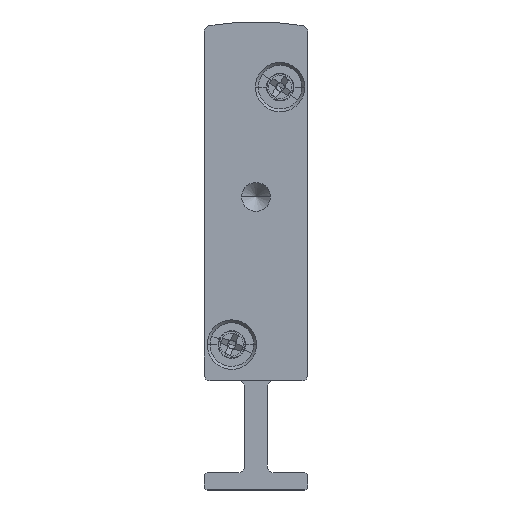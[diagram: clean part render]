
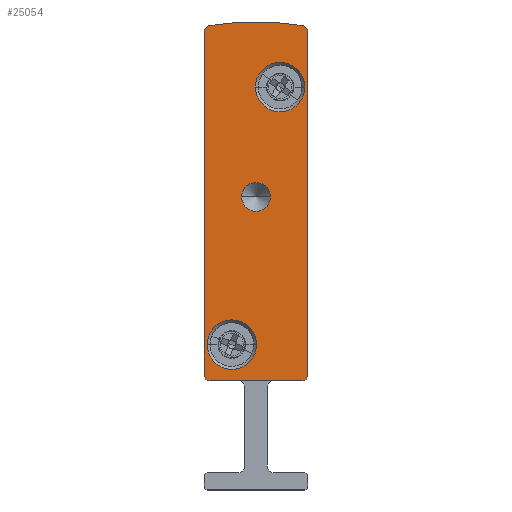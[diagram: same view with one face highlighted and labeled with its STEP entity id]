
A CAD part, front view. The second image highlights one B-rep face of the part: STEP entity #25054.
In plain terms, the highlighted planar face has unit normal (0, -1, 0).
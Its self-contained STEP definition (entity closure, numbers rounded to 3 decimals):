
#147 = CARTESIAN_POINT ( 'NONE',  ( 0., -2.5, 39.902 ) ) ;
#306 = CIRCLE ( 'NONE', #15837, 2.15 ) ;
#1715 = CARTESIAN_POINT ( 'NONE',  ( 0.408, -2.5, 40.393 ) ) ;
#1790 = VERTEX_POINT ( 'NONE', #12942 ) ;
#2793 = EDGE_CURVE ( 'NONE', #11171, #14448, #23287, .T. ) ;
#2937 = DIRECTION ( 'NONE',  ( -1., 0., 0. ) ) ;
#3032 = FACE_BOUND ( 'NONE', #15649, .T. ) ;
#3512 = ORIENTED_EDGE ( 'NONE', *, *, #23385, .F. ) ;
#3775 = DIRECTION ( 'NONE',  ( -1., 0., 0. ) ) ;
#3793 = DIRECTION ( 'NONE',  ( 0., -1., 0. ) ) ;
#4186 = DIRECTION ( 'NONE',  ( 0., 1., 0. ) ) ;
#4192 = VERTEX_POINT ( 'NONE', #30181 ) ;
#4200 = VERTEX_POINT ( 'NONE', #20446 ) ;
#4931 = ORIENTED_EDGE ( 'NONE', *, *, #23331, .T. ) ;
#5113 = LINE ( 'NONE', #29659, #32401 ) ;
#5249 = CARTESIAN_POINT ( 'NONE',  ( 4.5, -2.5, 25.5 ) ) ;
#5326 = EDGE_CURVE ( 'NONE', #29477, #11171, #22131, .T. ) ;
#5361 = CARTESIAN_POINT ( 'NONE',  ( 0.5, -2.5, 39.902 ) ) ;
#5776 = CARTESIAN_POINT ( 'NONE',  ( 5.75, -2.5, 25.5 ) ) ;
#5829 = FACE_BOUND ( 'NONE', #12439, .T. ) ;
#6264 = DIRECTION ( 'NONE',  ( 0., 1., 0. ) ) ;
#6591 = CARTESIAN_POINT ( 'NONE',  ( 4.5, -2.5, 17.092 ) ) ;
#6763 = DIRECTION ( 'NONE',  ( -1., 0., 0. ) ) ;
#6937 = ORIENTED_EDGE ( 'NONE', *, *, #31922, .F. ) ;
#6961 = VERTEX_POINT ( 'NONE', #19631 ) ;
#7161 = VERTEX_POINT ( 'NONE', #10514 ) ;
#7847 = VERTEX_POINT ( 'NONE', #9037 ) ;
#8272 = ORIENTED_EDGE ( 'NONE', *, *, #21490, .F. ) ;
#8278 = ORIENTED_EDGE ( 'NONE', *, *, #23998, .F. ) ;
#8296 = VERTEX_POINT ( 'NONE', #5776 ) ;
#8359 = CIRCLE ( 'NONE', #31836, 23.658 ) ;
#8587 = CIRCLE ( 'NONE', #31977, 0.5 ) ;
#9025 = ORIENTED_EDGE ( 'NONE', *, *, #2793, .F. ) ;
#9037 = CARTESIAN_POINT ( 'NONE',  ( 9., -2.5, 10. ) ) ;
#9103 = DIRECTION ( 'NONE',  ( 0., 1., 0. ) ) ;
#9270 = CARTESIAN_POINT ( 'NONE',  ( 0.5, -2.5, 10. ) ) ;
#9282 = CIRCLE ( 'NONE', #20289, 2.15 ) ;
#9307 = EDGE_CURVE ( 'NONE', #8296, #1790, #21609, .T. ) ;
#9879 = EDGE_CURVE ( 'NONE', #16656, #26004, #27530, .T. ) ;
#10514 = CARTESIAN_POINT ( 'NONE',  ( 8.5, -2.5, 9.5 ) ) ;
#10541 = DIRECTION ( 'NONE',  ( -1., 0., 0. ) ) ;
#10874 = AXIS2_PLACEMENT_3D ( 'NONE', #9270, #11562, #27267 ) ;
#10972 = CARTESIAN_POINT ( 'NONE',  ( 8.75, -2.5, 35.05 ) ) ;
#11055 = DIRECTION ( 'NONE',  ( 1., 0., 0. ) ) ;
#11171 = VERTEX_POINT ( 'NONE', #18297 ) ;
#11562 = DIRECTION ( 'NONE',  ( 0., 1., 0. ) ) ;
#11612 = AXIS2_PLACEMENT_3D ( 'NONE', #17190, #4186, #6763 ) ;
#11623 = ORIENTED_EDGE ( 'NONE', *, *, #21516, .F. ) ;
#11830 = CARTESIAN_POINT ( 'NONE',  ( 2.4, -2.5, 12.65 ) ) ;
#12439 = EDGE_LOOP ( 'NONE', ( #24848, #6937 ) ) ;
#12464 = CIRCLE ( 'NONE', #11612, 0.5 ) ;
#12942 = CARTESIAN_POINT ( 'NONE',  ( 3.25, -2.5, 25.5 ) ) ;
#12973 = ORIENTED_EDGE ( 'NONE', *, *, #9307, .T. ) ;
#13974 = LINE ( 'NONE', #25737, #23203 ) ;
#14015 = CARTESIAN_POINT ( 'NONE',  ( 6.6, -2.5, 35.05 ) ) ;
#14147 = DIRECTION ( 'NONE',  ( -1., 0., 0. ) ) ;
#14341 = DIRECTION ( 'NONE',  ( 0., 0., -1. ) ) ;
#14448 = VERTEX_POINT ( 'NONE', #28491 ) ;
#14574 = CARTESIAN_POINT ( 'NONE',  ( 2.4, -2.5, 12.65 ) ) ;
#14921 = DIRECTION ( 'NONE',  ( 0., -1., 0. ) ) ;
#15410 = DIRECTION ( 'NONE',  ( 0., 0., 1. ) ) ;
#15454 = DIRECTION ( 'NONE',  ( -1., 0., 0. ) ) ;
#15649 = EDGE_LOOP ( 'NONE', ( #23239, #22599 ) ) ;
#15702 = AXIS2_PLACEMENT_3D ( 'NONE', #32108, #9103, #16765 ) ;
#15837 = AXIS2_PLACEMENT_3D ( 'NONE', #14015, #3793, #31918 ) ;
#15914 = DIRECTION ( 'NONE',  ( 0., 1., 0. ) ) ;
#16462 = VECTOR ( 'NONE', #15410, 1000. ) ;
#16656 = VERTEX_POINT ( 'NONE', #28848 ) ;
#16765 = DIRECTION ( 'NONE',  ( -1., 0., 0. ) ) ;
#17190 = CARTESIAN_POINT ( 'NONE',  ( 8.5, -2.5, 10. ) ) ;
#17237 = AXIS2_PLACEMENT_3D ( 'NONE', #14574, #14921, #17330 ) ;
#17330 = DIRECTION ( 'NONE',  ( 1., 0., 0. ) ) ;
#17333 = EDGE_CURVE ( 'NONE', #22438, #4200, #29177, .T. ) ;
#18297 = CARTESIAN_POINT ( 'NONE',  ( 0., -2.5, 10. ) ) ;
#18476 = CARTESIAN_POINT ( 'NONE',  ( 6.6, -2.5, 35.05 ) ) ;
#19484 = FACE_OUTER_BOUND ( 'NONE', #21027, .T. ) ;
#19534 = ORIENTED_EDGE ( 'NONE', *, *, #32865, .F. ) ;
#19631 = CARTESIAN_POINT ( 'NONE',  ( 9., -2.5, 39.902 ) ) ;
#20289 = AXIS2_PLACEMENT_3D ( 'NONE', #11830, #22165, #24765 ) ;
#20446 = CARTESIAN_POINT ( 'NONE',  ( 0.25, -2.5, 12.65 ) ) ;
#20597 = CARTESIAN_POINT ( 'NONE',  ( 0.5, -2.5, 9.5 ) ) ;
#21027 = EDGE_LOOP ( 'NONE', ( #30113, #9025, #21183, #8278, #3512, #11623, #8272, #19534 ) ) ;
#21183 = ORIENTED_EDGE ( 'NONE', *, *, #5326, .F. ) ;
#21490 = EDGE_CURVE ( 'NONE', #4192, #6961, #22810, .T. ) ;
#21516 = EDGE_CURVE ( 'NONE', #6961, #7847, #5113, .T. ) ;
#21609 = CIRCLE ( 'NONE', #23657, 1.25 ) ;
#21724 = AXIS2_PLACEMENT_3D ( 'NONE', #18476, #23409, #11055 ) ;
#21908 = EDGE_CURVE ( 'NONE', #26004, #16656, #306, .T. ) ;
#22058 = DIRECTION ( 'NONE',  ( 0., 1., 0. ) ) ;
#22131 = CIRCLE ( 'NONE', #10874, 0.5 ) ;
#22165 = DIRECTION ( 'NONE',  ( 0., -1., 0. ) ) ;
#22438 = VERTEX_POINT ( 'NONE', #28396 ) ;
#22469 = EDGE_CURVE ( 'NONE', #14448, #30233, #8587, .T. ) ;
#22599 = ORIENTED_EDGE ( 'NONE', *, *, #9879, .F. ) ;
#22810 = CIRCLE ( 'NONE', #26182, 0.5 ) ;
#22921 = DIRECTION ( 'NONE',  ( -1., 0., 0. ) ) ;
#23203 = VECTOR ( 'NONE', #22921, 1000. ) ;
#23239 = ORIENTED_EDGE ( 'NONE', *, *, #21908, .F. ) ;
#23274 = PLANE ( 'NONE',  #29533 ) ;
#23287 = LINE ( 'NONE', #147, #16462 ) ;
#23331 = EDGE_CURVE ( 'NONE', #1790, #8296, #27350, .T. ) ;
#23337 = DIRECTION ( 'NONE',  ( 0., 1., 0. ) ) ;
#23385 = EDGE_CURVE ( 'NONE', #7847, #7161, #12464, .T. ) ;
#23409 = DIRECTION ( 'NONE',  ( 0., -1., 0. ) ) ;
#23657 = AXIS2_PLACEMENT_3D ( 'NONE', #5249, #15914, #2937 ) ;
#23998 = EDGE_CURVE ( 'NONE', #7161, #29477, #13974, .T. ) ;
#24765 = DIRECTION ( 'NONE',  ( 1., 0., 0. ) ) ;
#24848 = ORIENTED_EDGE ( 'NONE', *, *, #17333, .F. ) ;
#25054 = ADVANCED_FACE ( 'NONE', ( #3032, #5829, #19484, #30289 ), #23274, .F. ) ;
#25737 = CARTESIAN_POINT ( 'NONE',  ( 0.5, -2.5, 9.5 ) ) ;
#25871 = CARTESIAN_POINT ( 'NONE',  ( 0.5, -2.5, 39.902 ) ) ;
#26004 = VERTEX_POINT ( 'NONE', #10972 ) ;
#26182 = AXIS2_PLACEMENT_3D ( 'NONE', #27011, #22058, #3775 ) ;
#27011 = CARTESIAN_POINT ( 'NONE',  ( 8.5, -2.5, 39.902 ) ) ;
#27267 = DIRECTION ( 'NONE',  ( -1., 0., 0. ) ) ;
#27350 = CIRCLE ( 'NONE', #15702, 1.25 ) ;
#27530 = CIRCLE ( 'NONE', #21724, 2.15 ) ;
#28396 = CARTESIAN_POINT ( 'NONE',  ( 4.55, -2.5, 12.65 ) ) ;
#28491 = CARTESIAN_POINT ( 'NONE',  ( 0., -2.5, 39.902 ) ) ;
#28786 = EDGE_LOOP ( 'NONE', ( #4931, #12973 ) ) ;
#28848 = CARTESIAN_POINT ( 'NONE',  ( 4.45, -2.5, 35.05 ) ) ;
#29177 = CIRCLE ( 'NONE', #17237, 2.15 ) ;
#29477 = VERTEX_POINT ( 'NONE', #20597 ) ;
#29533 = AXIS2_PLACEMENT_3D ( 'NONE', #25871, #30769, #15454 ) ;
#29659 = CARTESIAN_POINT ( 'NONE',  ( 9., -2.5, 39.902 ) ) ;
#30113 = ORIENTED_EDGE ( 'NONE', *, *, #22469, .F. ) ;
#30181 = CARTESIAN_POINT ( 'NONE',  ( 8.592, -2.5, 40.393 ) ) ;
#30233 = VERTEX_POINT ( 'NONE', #1715 ) ;
#30289 = FACE_BOUND ( 'NONE', #28786, .T. ) ;
#30769 = DIRECTION ( 'NONE',  ( 0., 1., 0. ) ) ;
#31836 = AXIS2_PLACEMENT_3D ( 'NONE', #6591, #6264, #14147 ) ;
#31918 = DIRECTION ( 'NONE',  ( 1., 0., 0. ) ) ;
#31922 = EDGE_CURVE ( 'NONE', #4200, #22438, #9282, .T. ) ;
#31977 = AXIS2_PLACEMENT_3D ( 'NONE', #5361, #23337, #10541 ) ;
#32108 = CARTESIAN_POINT ( 'NONE',  ( 4.5, -2.5, 25.5 ) ) ;
#32401 = VECTOR ( 'NONE', #14341, 1000. ) ;
#32865 = EDGE_CURVE ( 'NONE', #30233, #4192, #8359, .T. ) ;
